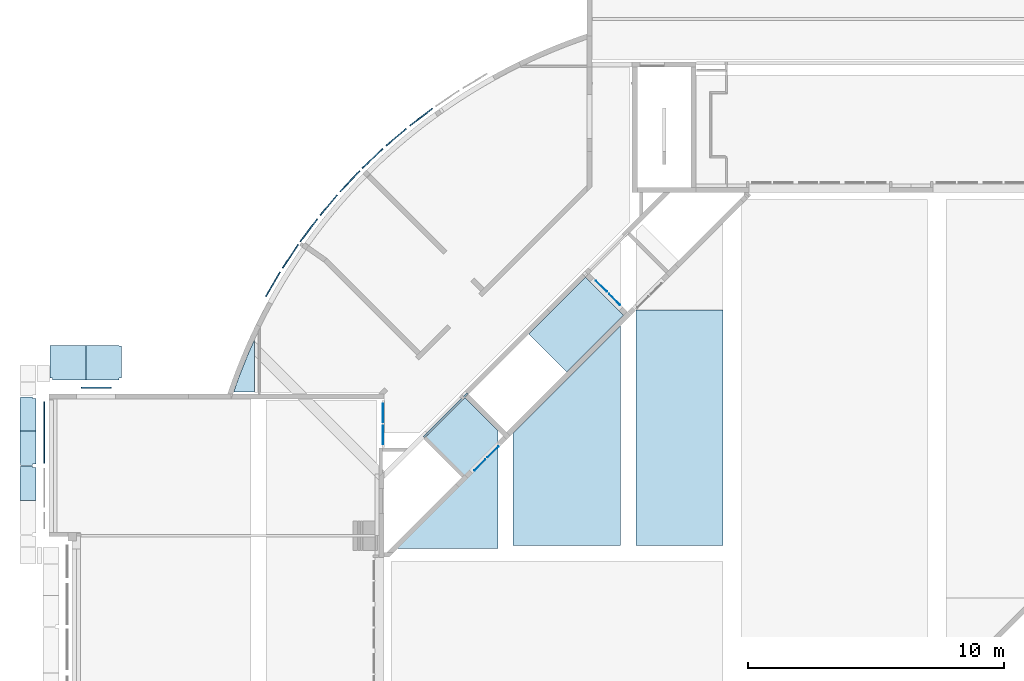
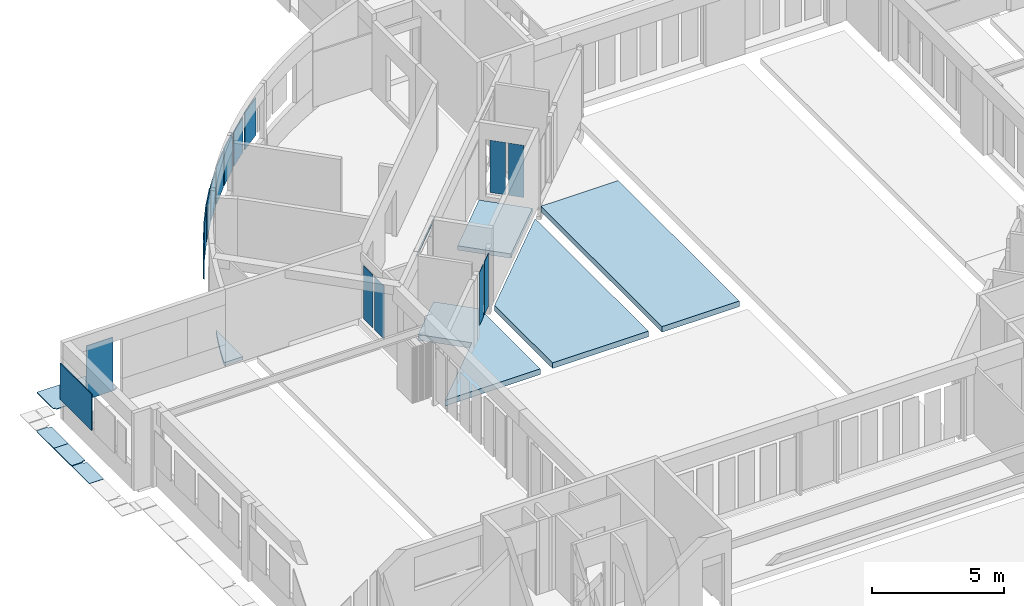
# One storey, part 8 of 30: 17 plates, 10 slabs, 1 element without a shape of its own.
"""IFC4X3_ADD2 building model written with IfcOpenShell, lengths in millimetres."""

from ifc_helpers import new_model, si_unit, point, direction, frame, frame_2d, origin_with_axes, origin_2d_with_axis, place, context, subcontext, project, spatial, polyline, circle_curve, trimmed, segment, composite_curve, rectangle, outline, extrude, source, transform, mapped, material, type_object, element, aggregate, save


model = new_model("IFC4X3_ADD2")

# Units and contexts
model_context = context("Model", 3, precision=1e-05, world=origin_with_axes(), true_north=direction((0.0, 1.0)))
body_context = subcontext(model_context, "Body", "Model", "MODEL_VIEW")
ifc_project = project(units=[si_unit("LENGTHUNIT", "METRE", prefix="MILLI"), si_unit("AREAUNIT", "SQUARE_METRE"), si_unit("VOLUMEUNIT", "CUBIC_METRE"), si_unit("PLANEANGLEUNIT", "RADIAN"), si_unit("TIMEUNIT", "SECOND"), si_unit("MASSUNIT", "GRAM")], contexts=[model_context])

# Site, building, storey
site_placement = place(None, origin_with_axes())
site = spatial("IfcSite", under=ifc_project, at=site_placement, Name="Site", CompositionType="ELEMENT")
building_placement = place(site_placement, origin_with_axes())
building = spatial("IfcBuilding", under=site, at=building_placement, Name="IFC Building Story")
storey_placement = place(building_placement, origin_with_axes())
storey = spatial("IfcBuildingStorey", under=building, at=storey_placement, Name="000", Elevation=0.0)

# Slab
ifc_material_1 = material(Name="BB_Beton_Bestaand")
slab_type_1 = type_object("IfcSlabType", Name="BB_Beton_Bestaand 200", PredefinedType="FLOOR", material=ifc_material_1)
slab_1_placement = place(storey_placement, frame((-30719.00667860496, 35293.98755288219, -400.0), z_axis=(0.0, 0.0, 1.0), x_axis=(-0.7071067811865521, -0.707106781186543, 0.0)))
element("IfcSlab", 1, at=slab_1_placement, inside=storey, type_object=slab_type_1, Name="Floor:BB_XX_Vloer uit beton, 200 mm", ObjectType="Floor:BB_XX_Vloer uit beton, 200 mm", PredefinedType="FLOOR", context=body_context, shape_type="SweptSolid", body=[
    extrude(rectangle(XDim=3139.999999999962, YDim=2099.99999999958, at=frame_2d((0.0, 0.0), x_axis=(-1.0, 0.0))), frame((1569.999999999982, 1049.999999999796, 0.0), z_axis=(0.0, 0.0, 1.0), x_axis=(1.0, 0.0, 0.0)), (0.0, 0.0, 1.0), 200.0),
])

# Plates
ifc_material_2 = material(Name="BB_Glas")
shared_shape_1 = source(origin_with_axes(), body_context, "Body", "SweptSolid", [
    extrude(rectangle(XDim=2400.0, YDim=1680.000000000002, at=origin_2d_with_axis()), frame((0.0, 0.0, -44.0), z_axis=(0.0, 0.0, 1.0), x_axis=(1.0, 0.0, 0.0)), (0.0, 0.0, 1.0), 44.0),
])
plate_1_placement = place(storey_placement, frame((-51887.5000000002, 29230.0, 1765.0), z_axis=(-1.0, 0.0, 0.0), x_axis=(0.0, 1.0, 0.0)))
element("IfcPlate", 2, at=plate_1_placement, inside=storey, material=ifc_material_2, Name="BB_07.06_Buitenbeglazing, rechthoekig_GMO:07.06.72#02_Drievoudige beglazing, 44 mm, A/A*/P4A RC2, -1 en +0", ObjectType="BB_07.06_Buitenbeglazing, rechthoekig_GMO:07.06.72#02_Drievoudige beglazing, 44 mm, A/A*/P4A RC2, -1 en +0", PredefinedType="USERDEFINED", context=body_context, shape_type="MappedRepresentation", body=[
    mapped(shared_shape_1, transform((0.0, 0.0, 0.0))),
])
shared_shape_2 = source(origin_with_axes(), body_context, "Body", "SweptSolid", [
    extrude(rectangle(XDim=1718.000000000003, YDim=1108.000000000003, at=frame_2d((0.0, 0.0), x_axis=(0.0, 1.0))), frame((0.0, 0.0, -44.0), z_axis=(0.0, 0.0, 1.0), x_axis=(1.0, 0.0, 0.0)), (0.0, 0.0, 1.0), 44.0),
])
for number, where, z_axis, x_axis in (
    (3, (-39062.3461774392, 39947.1786933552, 1784.0), (-0.6895881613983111, 0.7242017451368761, 0.0), (-0.7242017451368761, -0.6895881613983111, 0.0)),
    (4, (-37156.0835286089, 41567.9783362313, 1784.0), (-0.6041911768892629, 0.7968393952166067, 0.0), (-0.7968393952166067, -0.6041911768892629, 0.0)),
):
    element("IfcPlate", number, at=place(storey_placement, frame(where, z_axis=z_axis, x_axis=x_axis)), inside=storey, material=ifc_material_2, Name="BB_07.06_Buitenbeglazing, rechthoekig_GMO:07.06.72#02_Drievoudige beglazing, 44 mm, A/A*/P4A RC2, -1 en +0", ObjectType="BB_07.06_Buitenbeglazing, rechthoekig_GMO:07.06.72#02_Drievoudige beglazing, 44 mm, A/A*/P4A RC2, -1 en +0", PredefinedType="USERDEFINED", context=body_context, shape_type="MappedRepresentation", body=[
        mapped(shared_shape_2, transform((0.0, 0.0, 0.0))),
    ])
shared_shape_3 = source(origin_with_axes(), body_context, "Body", "SweptSolid", [
    extrude(rectangle(XDim=1602.000000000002, YDim=1030.000000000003, at=frame_2d((0.0, 0.0), x_axis=(0.0, 1.0))), frame((0.0, 0.0, -44.0), z_axis=(0.0, 0.0, 1.0), x_axis=(1.0, 0.0, 0.0)), (0.0, 0.0, 1.0), 44.0),
])
plate_2_placement = place(storey_placement, frame((-38133.1083414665, 40783.2004712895, 1765.0), z_axis=(-0.647662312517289, 0.761927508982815, 0.0), x_axis=(-0.761927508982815, -0.647662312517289, 0.0)))
element("IfcPlate", 5, at=plate_2_placement, inside=storey, material=ifc_material_2, Name="BB_07.06_Buitenbeglazing, rechthoekig_GMO:07.06.72#02_Drievoudige beglazing, 44 mm, A/A*/P4A RC2, -1 en +0", ObjectType="BB_07.06_Buitenbeglazing, rechthoekig_GMO:07.06.72#02_Drievoudige beglazing, 44 mm, A/A*/P4A RC2, -1 en +0", PredefinedType="USERDEFINED", context=body_context, shape_type="MappedRepresentation", body=[
    mapped(shared_shape_3, transform((0.0, 0.0, 0.0))),
])
shared_shape_4 = source(origin_with_axes(), body_context, "Body", "SweptSolid", [
    extrude(rectangle(XDim=1718.000000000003, YDim=1108.000000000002, at=frame_2d((0.0, 0.0), x_axis=(0.0, 1.0))), frame((0.0, 0.0, -44.0), z_axis=(0.0, 0.0, 1.0), x_axis=(1.0, 0.0, 0.0)), (0.0, 0.0, 1.0), 44.0),
])
for number, where, z_axis, x_axis in (
    (6, (-39945.5783730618, 39058.2626890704, 1784.0), (-0.7286114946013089, 0.6849272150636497, 0.0), (0.6849272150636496, 0.7286114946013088, 0.0)),
    (7, (-41554.0413640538, 37141.5746727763, 1784.0), (-0.8007150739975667, 0.5990453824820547, 0.0), (0.5990453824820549, 0.8007150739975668, 0.0)),
    (8, (-42274.8508320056, 36120.3390225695, 1784.0), (-0.83263998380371, 0.553814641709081, 0.0), (0.553814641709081, 0.83263998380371, 0.0)),
):
    element("IfcPlate", number, at=place(storey_placement, frame(where, z_axis=z_axis, x_axis=x_axis)), inside=storey, material=ifc_material_2, Name="BB_07.06_Buitenbeglazing, rechthoekig_GMO:07.06.72#02_Drievoudige beglazing, 44 mm, A/A*/P4A RC2, -1 en +0", ObjectType="BB_07.06_Buitenbeglazing, rechthoekig_GMO:07.06.72#02_Drievoudige beglazing, 44 mm, A/A*/P4A RC2, -1 en +0", PredefinedType="USERDEFINED", context=body_context, shape_type="MappedRepresentation", body=[
        mapped(shared_shape_4, transform((0.0, 0.0, 0.0))),
    ])
shared_shape_5 = source(origin_with_axes(), body_context, "Body", "SweptSolid", [
    extrude(rectangle(XDim=1602.000000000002, YDim=1030.000000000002, at=frame_2d((0.0, 0.0), x_axis=(0.0, 1.0))), frame((0.0, 0.0, -44.0), z_axis=(0.0, 0.0, 1.0), x_axis=(1.0, 0.0, 0.0)), (0.0, 0.0, 1.0), 44.0),
])
plate_3_placement = place(storey_placement, frame((-40775.5845333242, 38123.6552319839, 1765.0), z_axis=(-0.7661062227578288, 0.642713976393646, 0.0), x_axis=(0.642713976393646, 0.7661062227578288, 0.0)))
element("IfcPlate", 9, at=plate_3_placement, inside=storey, material=ifc_material_2, Name="BB_07.06_Buitenbeglazing, rechthoekig_GMO:07.06.72#02_Drievoudige beglazing, 44 mm, A/A*/P4A RC2, -1 en +0", ObjectType="BB_07.06_Buitenbeglazing, rechthoekig_GMO:07.06.72#02_Drievoudige beglazing, 44 mm, A/A*/P4A RC2, -1 en +0", PredefinedType="USERDEFINED", context=body_context, shape_type="MappedRepresentation", body=[
    mapped(shared_shape_5, transform((0.0, 0.0, 0.0))),
])
shared_shape_6 = source(origin_with_axes(), body_context, "Body", "SweptSolid", [
    extrude(rectangle(XDim=1640.000000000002, YDim=1096.000000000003, at=frame_2d((0.0, 0.0), x_axis=(0.0, 1.0))), frame((0.0, 0.0, -44.0), z_axis=(0.0, 0.0, 1.0), x_axis=(1.0, 0.0, 0.0)), (0.0, 0.0, 1.0), 44.0),
])
plate_4_placement = place(storey_placement, frame((-42955.5616505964, 35029.4203907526, 1784.0), z_axis=(-0.8626056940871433, 0.5058768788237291, 0.0), x_axis=(-0.5058768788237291, -0.8626056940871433, 0.0)))
element("IfcPlate", 10, at=plate_4_placement, inside=storey, material=ifc_material_2, Name="BB_07.06_Buitenbeglazing, rechthoekig_GMO:07.06.72#02_Drievoudige beglazing, 44 mm, A/A*/P4A RC2, -1 en +0", ObjectType="BB_07.06_Buitenbeglazing, rechthoekig_GMO:07.06.72#02_Drievoudige beglazing, 44 mm, A/A*/P4A RC2, -1 en +0", PredefinedType="USERDEFINED", context=body_context, shape_type="MappedRepresentation", body=[
    mapped(shared_shape_6, transform((0.0, 0.0, 0.0))),
])
ifc_material_3 = material(Name="BB_Metaal_Aluminium_Buitenschrijnwerk")
shared_shape_7 = source(origin_with_axes(), body_context, "Body", "SweptSolid", [
    extrude(rectangle(XDim=2473.0, YDim=1164.000000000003, at=frame_2d((0.0, 0.0), x_axis=(0.0, 1.0))), frame((0.0, 0.0, -44.0), z_axis=(0.0, 0.0, 1.0), x_axis=(1.0, 0.0, 0.0)), (0.0, 0.0, 1.0), 44.0),
])
plate_5_placement = place(storey_placement, frame((-49845.0, 30997.5000000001, 1323.49999999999), z_axis=(0.0, 1.0, 0.0), x_axis=(1.0, 0.0, 0.0)))
element("IfcPlate", 11, at=plate_5_placement, inside=storey, material=ifc_material_3, Name="BB_07.06_Buitenbeglazing, rechthoekig_GMO:07.04.63#01_Vulpaneel, 44 mm", ObjectType="BB_07.06_Buitenbeglazing, rechthoekig_GMO:07.04.63#01_Vulpaneel, 44 mm", PredefinedType="USERDEFINED", context=body_context, shape_type="MappedRepresentation", body=[
    mapped(shared_shape_7, transform((0.0, 0.0, 0.0))),
])
shared_shape_8 = source(origin_with_axes(), body_context, "Body", "SweptSolid", [
    extrude(rectangle(XDim=2425.0, YDim=600.500000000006, at=frame_2d((0.0, 0.0), x_axis=(0.0, 1.0))), frame((0.0, 0.0, -20.0), z_axis=(0.0, 0.0, 1.0), x_axis=(1.0, 0.0, 0.0)), (0.0, 0.0, 1.0), 20.0),
])
for number, where, z_axis, x_axis, name in (
    (12, (-29578.1511870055, 34433.1463466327, 1307.50000000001), (0.7071067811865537, 0.7071067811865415, 0.0), (-0.7071067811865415, 0.7071067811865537, 0.0), "BB_07.06_Buitenbeglazing, rechthoekig_GMO:Enkel gelaagd, 20 mm"),
    (13, (-30095.3997974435, 34950.3949570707, 1307.49999999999), (0.7071067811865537, 0.7071067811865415, 0.0), (-0.7071067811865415, 0.7071067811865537, 0.0), "BB_07.06_Buitenbeglazing, rechthoekig_GMO:Enkel gelaagd, 20 mm"),
):
    element("IfcPlate", number, at=place(storey_placement, frame(where, z_axis=z_axis, x_axis=x_axis)), inside=storey, material=ifc_material_2, Name=name, ObjectType="BB_07.06_Buitenbeglazing, rechthoekig_GMO:Enkel gelaagd, 20 mm", PredefinedType="USERDEFINED", context=body_context, shape_type="MappedRepresentation", body=[
        mapped(shared_shape_8, transform((0.0, 0.0, 0.0))),
    ])
shared_shape_9 = source(origin_with_axes(), body_context, "Body", "SweptSolid", [
    extrude(rectangle(XDim=2455.0, YDim=600.500000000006, at=frame_2d((0.0, 0.0), x_axis=(0.0, 1.0))), frame((0.0, 0.0, -20.0), z_axis=(0.0, 0.0, 1.0), x_axis=(1.0, 0.0, 0.0)), (0.0, 0.0, 1.0), 20.0),
])
for number, where, z_axis, x_axis, name in (
    (14, (-34862.8159026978, 27963.9175294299, 1307.50000000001), (-0.7071067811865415, 0.7071067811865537, 0.0), (0.7071067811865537, 0.7071067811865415, 0.0), "BB_07.06_Buitenbeglazing, rechthoekig_GMO:Enkel gelaagd, 20 mm"),
    (15, (-34345.5672922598, 28481.1661398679, 1307.49999999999), (-0.7071067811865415, 0.7071067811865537, 0.0), (0.7071067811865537, 0.7071067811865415, 0.0), "BB_07.06_Buitenbeglazing, rechthoekig_GMO:Enkel gelaagd, 20 mm"),
):
    element("IfcPlate", number, at=place(storey_placement, frame(where, z_axis=z_axis, x_axis=x_axis)), inside=storey, material=ifc_material_2, Name=name, ObjectType="BB_07.06_Buitenbeglazing, rechthoekig_GMO:Enkel gelaagd, 20 mm", PredefinedType="USERDEFINED", context=body_context, shape_type="MappedRepresentation", body=[
        mapped(shared_shape_9, transform((0.0, 0.0, 0.0))),
    ])
shared_shape_10 = source(origin_with_axes(), body_context, "Body", "SweptSolid", [
    extrude(rectangle(XDim=2465.0, YDim=720.500000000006, at=frame_2d((0.0, 0.0), x_axis=(0.0, 1.0))), frame((0.0, 0.0, -20.0), z_axis=(0.0, 0.0, 1.0), x_axis=(1.0, 0.0, 0.0)), (0.0, 0.0, 1.0), 20.0),
])
for number, where, z_axis, x_axis, name in (
    (16, (-38647.0, 29134.1198058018, 1307.50000000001), (-1.0, 0.0, 0.0), (0.0, 1.0, 0.0), "BB_07.06_Buitenbeglazing, rechthoekig_GMO:Enkel gelaagd, 20 mm"),
    (17, (-38647.0, 29985.6198058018, 1307.49999999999), (-1.0, 0.0, 0.0), (0.0, 1.0, 0.0), "BB_07.06_Buitenbeglazing, rechthoekig_GMO:Enkel gelaagd, 20 mm"),
):
    element("IfcPlate", number, at=place(storey_placement, frame(where, z_axis=z_axis, x_axis=x_axis)), inside=storey, material=ifc_material_2, Name=name, ObjectType="BB_07.06_Buitenbeglazing, rechthoekig_GMO:Enkel gelaagd, 20 mm", PredefinedType="USERDEFINED", context=body_context, shape_type="MappedRepresentation", body=[
        mapped(shared_shape_10, transform((0.0, 0.0, 0.0))),
    ])

# Slabs
slab_type_2 = type_object("IfcSlabType", Name="BB_Beton_Bestaand 260", PredefinedType="FLOOR", material=ifc_material_1)
slab_2_placement = place(storey_placement, frame((-33549.99999999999, 33410.30303802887, -660.0), z_axis=(0.0, 0.0, 1.0), x_axis=(0.0, -1.0, 0.0)))
element("IfcSlab", 18, at=slab_2_placement, inside=storey, type_object=slab_type_2, Name="Floor:BB_XX_Vloer welfsels, 260 mm", ObjectType="Floor:BB_XX_Vloer welfsels, 260 mm", PredefinedType="FLOOR", context=body_context, shape_type="SweptSolid", body=[
    extrude(outline(polyline([(-5350.151519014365, 2100.0), (3250.151519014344, 2100.0), (3250.151519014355, -2099.999999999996), (-1150.151519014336, -2100.000000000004), (-5350.151519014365, 2100.0)])), frame((5350.151519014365, 2100.000000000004, 0.0), z_axis=(0.0, 0.0, 1.0), x_axis=(1.0, 0.0, 0.0)), (0.0, 0.0, 1.0), 260.0),
])
slab_3_placement = place(storey_placement, frame((-28750.0, 34010.28421636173, -660.0), z_axis=(0.0, 0.0, 1.0), x_axis=(0.0, -1.0, 0.0)))
element("IfcSlab", 19, at=slab_3_placement, inside=storey, type_object=slab_type_2, Name="Floor:BB_XX_Vloer welfsels, 260 mm", ObjectType="Floor:BB_XX_Vloer welfsels, 260 mm", PredefinedType="FLOOR", context=body_context, shape_type="SweptSolid", body=[
    extrude(rectangle(XDim=9200.284216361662, YDim=3390.0, at=frame_2d((0.0, 0.0), x_axis=(-1.0, 0.0))), frame((4600.142108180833, 1695.0, 0.0), z_axis=(0.0, 0.0, 1.0), x_axis=(1.0, 0.0, 0.0)), (0.0, 0.0, 1.0), 260.0),
])
slab_4_placement = place(storey_placement, frame((-38328.96597154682, 30577.58532236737, -660.0), z_axis=(0.0, 0.0, 1.0), x_axis=(0.0, -1.0, 0.0)))
element("IfcSlab", 20, at=slab_4_placement, inside=storey, type_object=slab_type_2, Name="Floor:BB_XX_Vloer uit beton, 260 mm", ObjectType="Floor:BB_XX_Vloer uit beton, 260 mm", PredefinedType="FLOOR", context=body_context, shape_type="SweptSolid", body=[
    extrude(outline(polyline([(-2953.288852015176, 336.3107570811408), (-1667.879942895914, 1621.719666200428), (2924.296470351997, 1621.719666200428), (2924.296470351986, -2557.246305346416), (132.2949920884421, 234.75517291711), (-1359.71913788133, -1257.258957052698), (-2953.288852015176, 336.3107570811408)])), frame((2953.288852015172, 2557.246305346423, 0.0), z_axis=(0.0, 0.0, 1.0), x_axis=(1.0, 0.0, 0.0)), (0.0, 0.0, 1.0), 260.0),
])
slab_type_3 = type_object("IfcSlabType", Name="BB_Beton_Bestaand 150", PredefinedType="FLOOR", material=ifc_material_1)
slab_5_placement = place(storey_placement, frame((-44476.35467927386, 32845.12339520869, -350.0), z_axis=(0.0, 0.0, 1.0), x_axis=(0.0, -1.0, 0.0)))
element("IfcSlab", 21, at=slab_5_placement, inside=storey, type_object=slab_type_3, Name="Floor:BB_XX_Vloer uit beton, 150 mm", ObjectType="Floor:BB_XX_Vloer uit beton, 150 mm", PredefinedType="FLOOR", context=body_context, shape_type="SweptSolid", body=[
    extrude(outline(composite_curve([segment(trimmed(circle_curve(origin_2d_with_axis(), 22000.00000009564), [point((-7105.359179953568, -20820.99591585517))], [point((-9150.482575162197, -20006.71558866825))], False, "CARTESIAN"), True, "CONTINUOUS"), segment(polyline([(-9150.482575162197, -20006.71558866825), (-7105.359179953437, -20006.71558866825)]), True, "CONTINUOUS"), segment(polyline([(-7105.359179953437, -20006.71558866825), (-7105.359179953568, -20820.99591585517)]), True, "CONTINUOUS")], self_intersect=False)), frame((9150.48257516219, 20820.99591585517, 0.0), z_axis=(0.0, 0.0, 1.0), x_axis=(1.0, 0.0, 0.0)), (0.0, 0.0, 1.0), 150.0),
])

# Assembly, plate
assembly_placement = place(storey_placement, origin_with_axes())
assembly = element("IfcElementAssembly", 22, at=assembly_placement, inside=storey, Name="Structural Connections Assembly:IPE360 + plaat", ObjectType="Structural Connections Assembly:IPE360 + plaat", AssemblyPlace="NOTDEFINED", PredefinedType="USERDEFINED")
ifc_material_4 = material(Name="BB_Schrijnwerk_Aluminium")
shared_shape_11 = source(origin_with_axes(), body_context, "Body", "SweptSolid", [
    extrude(rectangle(XDim=2419.99999999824, YDim=65.00000000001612, at=frame_2d((0.0, 0.0), x_axis=(0.7071067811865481, 0.7071067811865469))), frame((878.580175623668, 878.5801756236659, 0.0), z_axis=(0.0, 0.0, 1.0), x_axis=(1.0, 0.0, 0.0)), (0.0, 0.0, 1.0), 9.99999999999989),
])
plate_6_placement = place(assembly_placement, frame((-37071.3004473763, 29027.9608113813, 3239.50000000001), z_axis=(0.0, 0.0, 1.0), x_axis=(1.0, 0.0, 0.0)))
plate_6 = element("IfcPlate", 23, at=plate_6_placement, material=ifc_material_4, Name="plate3:plate", ObjectType="plate3:plate", PredefinedType="USERDEFINED", context=body_context, shape_type="MappedRepresentation", body=[
    mapped(shared_shape_11, transform((0.0, 0.0, 0.0))),
])
aggregate(assembly, [plate_6])

# Slabs
ifc_material_5 = material(Name="Steel, Galvanized - looprooster")
slab_type_4 = type_object("IfcSlabType", Name="Steel, Galvanized - looprooster 30", PredefinedType="FLOOR", material=ifc_material_5)
slab_6_placement = place(storey_placement, frame((-51640.00003623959, 31285.0004807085, -190.0), z_axis=(0.0, 0.0, 1.0), x_axis=(1.0, 0.0, 0.0)))
element("IfcSlab", 24, at=slab_6_placement, inside=storey, type_object=slab_type_4, Name="Floor:GVH - Looprooster 30 mm", ObjectType="Floor:GVH - Looprooster 30 mm", PredefinedType="FLOOR", context=body_context, shape_type="SweptSolid", body=[
    extrude(outline(polyline([(-404.9997796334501, -471.6666669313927), (-404.9997796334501, -391.6666661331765), (-494.9991101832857, -391.6666661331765), (-494.9991101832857, 863.3333330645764), (899.9988898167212, 863.3333330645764), (899.9988898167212, -471.6666669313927), (-404.9997796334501, -471.6666669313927)])), frame((494.9991101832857, 471.6666669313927, 0.0), z_axis=(0.0, 0.0, 1.0), x_axis=(1.0, 0.0, 0.0)), (0.0, 0.0, 1.0), 30.0),
])
slab_7_placement = place(storey_placement, frame((-50245.00203623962, 31285.00048070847, -190.0), z_axis=(0.0, 0.0, 1.0), x_axis=(1.0, 0.0, 0.0)))
element("IfcSlab", 25, at=slab_7_placement, inside=storey, type_object=slab_type_4, Name="Floor:GVH - Looprooster 30 mm", ObjectType="Floor:GVH - Looprooster 30 mm", PredefinedType="FLOOR", context=body_context, shape_type="SweptSolid", body=[
    extrude(outline(polyline([(301.2508346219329, -602.4997503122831), (301.2508346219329, -682.500248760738), (-993.7517185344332, -682.500248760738), (-993.7517185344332, 652.4997512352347), (291.2506024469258, 652.4997512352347), (291.2506024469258, 632.500247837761), (401.2502814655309, 632.500247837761), (401.2502814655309, -602.4997503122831), (301.2508346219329, -602.4997503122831)])), frame((993.7517185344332, 682.500248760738, 0.0), z_axis=(0.0, 0.0, 1.0), x_axis=(1.0, 0.0, 0.0)), (0.0, 0.0, 1.0), 30.0),
])
slab_8_placement = place(storey_placement, frame((-52819.998957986, 29279.99796376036, -350.0), z_axis=(0.0, 0.0, 1.0), x_axis=(0.0, -1.0, 0.0)))
element("IfcSlab", 26, at=slab_8_placement, inside=storey, type_object=slab_type_4, Name="Floor:GVH - Looprooster 30 mm", ObjectType="Floor:GVH - Looprooster 30 mm", PredefinedType="FLOOR", context=body_context, shape_type="SweptSolid", body=[
    extrude(outline(polyline([(368.499500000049, -267.5011650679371), (281.4994999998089, -267.5011650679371), (281.4994999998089, -282.4999850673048), (-966.4984999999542, -282.4999850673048), (-966.4984999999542, 347.5005750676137), (316.4995000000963, 347.5005750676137), (316.4995000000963, 202.5005750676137), (368.499500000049, 202.5005750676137), (368.499500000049, -267.5011650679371)])), frame((966.4984999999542, 282.4999850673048, 0.0), z_axis=(0.0, 0.0, 1.0), x_axis=(1.0, 0.0, 0.0)), (0.0, 0.0, 1.0), 30.0),
])
slab_9_placement = place(storey_placement, frame((-52819.9983978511, 30614.9999637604, -350.0), z_axis=(0.0, 0.0, 1.0), x_axis=(0.0, -1.0, 0.0)))
element("IfcSlab", 27, at=slab_9_placement, inside=storey, type_object=slab_type_4, Name="Floor:GVH - Looprooster 30 mm", ObjectType="Floor:GVH - Looprooster 30 mm", PredefinedType="FLOOR", context=body_context, shape_type="SweptSolid", body=[
    extrude(outline(polyline([(-307.7504499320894, 347.5005722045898), (975.2515500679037, 347.5005722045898), (975.2515500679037, -282.4994277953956), (-307.7506502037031, -282.4994277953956), (-307.7506502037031, -267.501716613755), (-359.750449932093, -267.501716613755), (-359.750449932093, 202.5005722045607), (-307.7504499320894, 202.5005722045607), (-307.7504499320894, 347.5005722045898)])), frame((359.750449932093, 282.4994277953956, 0.0), z_axis=(0.0, 0.0, 1.0), x_axis=(1.0, 0.0, 0.0)), (0.0, 0.0, 1.0), 30.0),
])
slab_10_placement = place(storey_placement, frame((-52819.99895798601, 27914.99996376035, -350.0), z_axis=(0.0, 0.0, 1.0), x_axis=(0.0, -1.0, 0.0)))
element("IfcSlab", 28, at=slab_10_placement, inside=storey, type_object=slab_type_4, Name="Floor:GVH - Looprooster 30 mm", ObjectType="Floor:GVH - Looprooster 30 mm", PredefinedType="FLOOR", context=body_context, shape_type="SweptSolid", body=[
    extrude(outline(polyline([(-316.7495000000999, 347.5005750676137), (967.2484999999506, 347.5005750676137), (967.2484999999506, -282.4999850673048), (-281.7494999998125, -282.4999850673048), (-281.7494999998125, -267.5011650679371), (-368.7495000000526, -267.5011650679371), (-368.7495000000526, 202.5005750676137), (-316.7495000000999, 202.5005750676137), (-316.7495000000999, 347.5005750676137)])), frame((368.7495000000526, 282.4999850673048, 0.0), z_axis=(0.0, 0.0, 1.0), x_axis=(1.0, 0.0, 0.0)), (0.0, 0.0, 1.0), 30.0),
])

save(model, "model.ifc")
